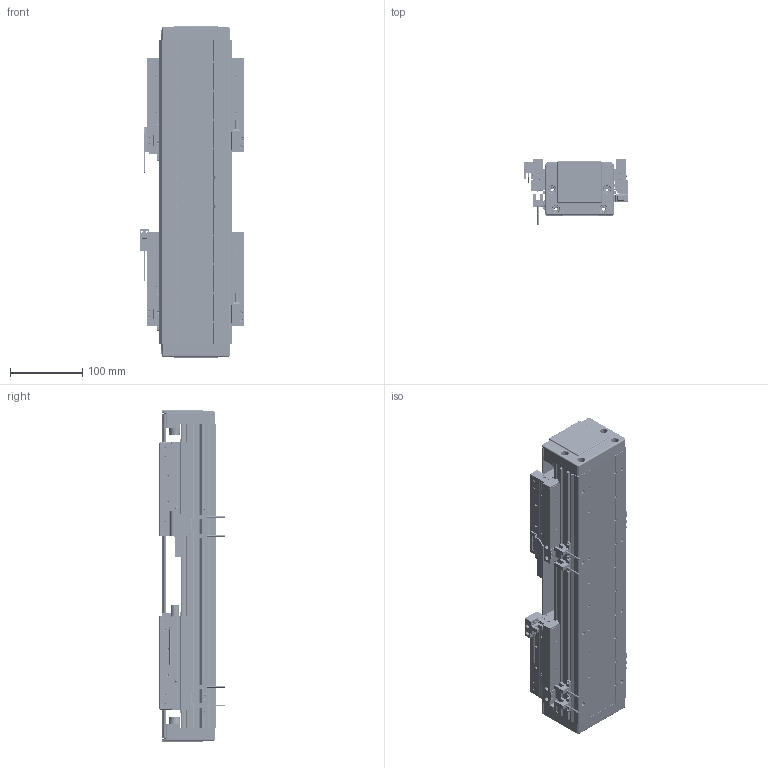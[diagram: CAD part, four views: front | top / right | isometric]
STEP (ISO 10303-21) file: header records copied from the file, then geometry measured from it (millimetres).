
FILE_DESCRIPTION (( 'STEP AP203' ), '1' );
FILE_NAME ('DA-B95-2-B15-T80-C010-0.2 直线电机.STEP', '2023-05-06T06:13:50', ( '微软用户' ), ( '微软中国' ), 'SwSTEP 2.0', 'SolidWorks 2019', '' );
FILE_SCHEMA (( 'CONFIG_CONTROL_DESIGN' ));
Length unit declared in the file: millimetre
Products named in the file (32): 葩璃 BKM015-W060-C1-TP-DA-0.2^DA-A95-B15-T-C010-0.2-N 眻盄萇儂; IU-BU95-L-00 菁釱_L420; 66245-BU95-V 幗紩賑怢; 葩璃 PM-Y45^DA-A95-B15-T-C010-0.2-N 眻盄萇儂; DA-A95-GYP-00 光电感应片^DA-A95-B15-T-C010-0.2-N 直线电机; IU-BU95-L 菁釱絳寢; B15 XD-U-02L ｴﾅﾕ､ｳﾟ^DA-A95-B15-T-C010-0.2-N ﾖｱﾏﾟｵ扈銈XD-U-02L; 复件 DKW-KGZ-ZJ-00 中间光电开关支架^DA-A95-B15-T-C010-0.2-N 直线电机; PM-T45 光电开关^DA-A95-B15-T-C010-0.2-N 直线电机; 复件 六角薄螺母 M3^DA-A95-B15-T-C010-0.2-N 直线电机_GB_FASTENER_NUT_STNAB M3-C; 复件 纯铜油杯 6x6mm^66245-BU95-V 滚珠滑台; 复件 DA95-DK-00 挡块^66245-BU95-V 滚珠滑台; ｸｴｼ DA95-Txxx-002-00 ｸﾇｰ蘓DA-A95-B15-T-C010-0.2-N ﾖｱﾏﾟｵ扈銈T+30; 复件 DA95-B15-YB-B-00 压板B^66245-BU95-V 滚珠滑台; 复件 DA95-MFP-01 密封片^66245-BU95-V 滚珠滑台; 复件 DKW-GYP-ZJ-00 中间光电感应片^DA-A95-B15-T-C010-0.2-N 直线电机; 复件 DA95-HK-GT-00 滑块钢轨^66245-BU95-V-00 一体化滑动台板; 复件 DA95-DB-00  挡板^66245-BU95-V 滚珠滑台; 葩璃 DA95-B15-DP-A-00 菜えA^66245-BU95-V 幗紩賑怢; 66245-BU95-V-00 珨极趙賑雄怢啣; LMDK-2-R001-V5-L02-C1-F00，0.2M 读数头^DA-A95-B15-T-C010-0.2-N 直线电机_DMA-010-0.2; 葩璃 BKMA01-W060-TRL^DA-A95-B15-T-C010-0.2-N 眻盄萇儂; DA95-DG-H-01^DA-A95-B15-T-C010-0.2-N 眻盄萇儂; 复件 DKW-HXJ-JY-00 缓冲橡胶^DA-A95-B15-T-C010-0.2-N 直线电机; 葩璃 DA95-B15-DP--B-00 菜えB^66245-BU95-V 幗紩賑怢; 葩璃 DA95-GT-T-00^IU-BU95-L 菁釱絳寢_DA95; DA-B95-2-B15-T80-C010-0.2 眻盄萇儂; DA95-HXJ-00 缓冲橡胶^DA-A95-B15-T-C010-0.2-N 直线电机; 复件 DA95-B15-YB-A-00 压板A^66245-BU95-V 滚珠滑台; 复件 66245-BU95-HT-V-01 滑动台板^66245-BU95-V-00 一体化滑动台板
Assembly tree (76 placements, depth 4):
  DA-B95-2-B15-T80-C010-0.2 眻盄萇儂
    IU-BU95-L 菁釱絳寢
      IU-BU95-L-00 菁釱_L420
      葩璃 DA95-GT-T-00^IU-BU95-L 菁釱絳寢_DA95  x2
    66245-BU95-V 幗紩賑怢
      66245-BU95-V-00 珨极趙賑雄怢啣
        复件 66245-BU95-HT-V-01 滑动台板^66245-BU95-V-00 一体化滑动台板
        复件 DA95-HK-GT-00 滑块钢轨^66245-BU95-V-00 一体化滑动台板  x2
      葩璃 DA95-B15-DP-A-00 菜えA^66245-BU95-V 幗紩賑怢
      复件 DA95-B15-YB-A-00 压板A^66245-BU95-V 滚珠滑台
      复件 DA95-B15-YB-B-00 压板B^66245-BU95-V 滚珠滑台
      复件 DA95-DB-00  挡板^66245-BU95-V 滚珠滑台  x4
      复件 DA95-DK-00 挡块^66245-BU95-V 滚珠滑台  x2
      复件 DA95-MFP-01 密封片^66245-BU95-V 滚珠滑台  x4
      复件 纯铜油杯 6x6mm^66245-BU95-V 滚珠滑台  x2
      葩璃 DA95-B15-DP--B-00 菜えB^66245-BU95-V 幗紩賑怢
    66245-BU95-V 幗紩賑怢
      66245-BU95-V-00 珨极趙賑雄怢啣
        复件 66245-BU95-HT-V-01 滑动台板^66245-BU95-V-00 一体化滑动台板
        复件 DA95-HK-GT-00 滑块钢轨^66245-BU95-V-00 一体化滑动台板  x2
      葩璃 DA95-B15-DP-A-00 菜えA^66245-BU95-V 幗紩賑怢
      复件 DA95-B15-YB-A-00 压板A^66245-BU95-V 滚珠滑台
      复件 DA95-B15-YB-B-00 压板B^66245-BU95-V 滚珠滑台
      复件 DA95-DB-00  挡板^66245-BU95-V 滚珠滑台  x4
      复件 DA95-DK-00 挡块^66245-BU95-V 滚珠滑台  x2
      复件 DA95-MFP-01 密封片^66245-BU95-V 滚珠滑台  x4
      复件 纯铜油杯 6x6mm^66245-BU95-V 滚珠滑台  x2
      葩璃 DA95-B15-DP--B-00 菜えB^66245-BU95-V 幗紩賑怢
    DA-A95-GYP-00 光电感应片^DA-A95-B15-T-C010-0.2-N 直线电机  x2
    LMDK-2-R001-V5-L02-C1-F00，0.2M 读数头^DA-A95-B15-T-C010-0.2-N 直线电机_DMA-010-0.2  x2
    复件 DKW-KGZ-ZJ-00 中间光电开关支架^DA-A95-B15-T-C010-0.2-N 直线电机
    葩璃 PM-Y45^DA-A95-B15-T-C010-0.2-N 眻盄萇儂
    复件 DKW-GYP-ZJ-00 中间光电感应片^DA-A95-B15-T-C010-0.2-N 直线电机
    葩璃 BKM015-W060-C1-TP-DA-0.2^DA-A95-B15-T-C010-0.2-N 眻盄萇儂  x2
    复件 DKW-HXJ-JY-00 缓冲橡胶^DA-A95-B15-T-C010-0.2-N 直线电机  x2
    PM-T45 光电开关^DA-A95-B15-T-C010-0.2-N 直线电机  x4
    B15 XD-U-02L ｴﾅﾕ､ｳﾟ^DA-A95-B15-T-C010-0.2-N ﾖｱﾏﾟｵ扈銈XD-U-02L
    DA95-DG-H-01^DA-A95-B15-T-C010-0.2-N 眻盄萇儂  x2
    ｸｴｼ DA95-Txxx-002-00 ｸﾇｰ蘓DA-A95-B15-T-C010-0.2-N ﾖｱﾏﾟｵ扈銈T+30
    DA95-HXJ-00 缓冲橡胶^DA-A95-B15-T-C010-0.2-N 直线电机  x4
    葩璃 BKMA01-W060-TRL^DA-A95-B15-T-C010-0.2-N 眻盄萇儂
    复件 六角薄螺母 M3^DA-A95-B15-T-C010-0.2-N 直线电机_GB_FASTENER_NUT_STNAB M3-C  x6
Bounding box: 145.4 x 90.2 x 460 mm (x, y, z)
Volume: 2594430.5 mm3; surface area: 769377.6 mm2
Topology: 71 solids, 89 shells, 4030 faces, 10168 edges, 6221 vertices
Faces by surface type: cylinder 1660, plane 1418, cone 544, bspline 344, torus 60, sphere 4
Entity records: 73767 total; most frequent: CARTESIAN_POINT 19802, DIRECTION 10325, ORIENTED_EDGE 10274, EDGE_CURVE 5137, AXIS2_PLACEMENT_3D 3823, VERTEX_POINT 3236, VECTOR 2679, LINE 2679
